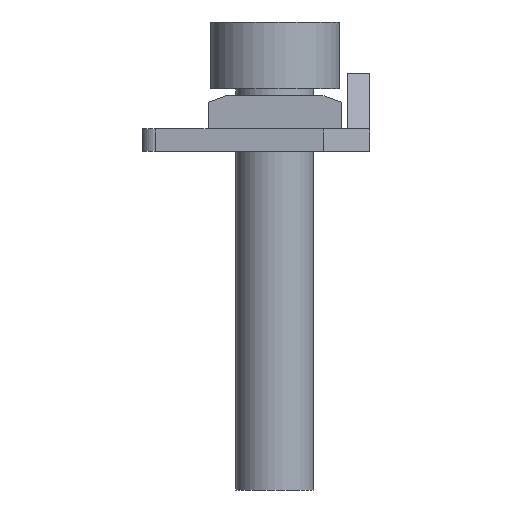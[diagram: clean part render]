
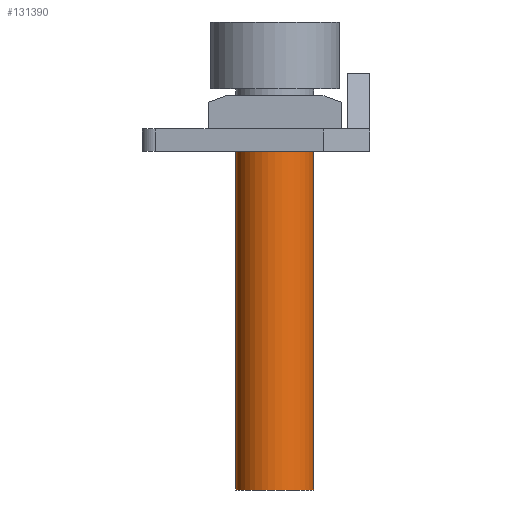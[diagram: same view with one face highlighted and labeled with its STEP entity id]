
A CAD part, left-side view. The second image highlights one B-rep face of the part: STEP entity #131390.
In plain terms, the highlighted cylindrical face has radius 1.75 mm (diameter 3.5 mm), a partial arc.
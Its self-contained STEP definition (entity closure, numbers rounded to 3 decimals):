
#112160=CARTESIAN_POINT('',(41.5,66.,0.2));
#112170=DIRECTION('',(0.,0.,-1.));
#112180=DIRECTION('',(0.,1.,0.));
#112190=AXIS2_PLACEMENT_3D('',#112160,#112170,#112180);
#112200=CIRCLE('',#112190,1.75);
#112210=CARTESIAN_POINT('',(41.5,67.75,0.2));
#112220=VERTEX_POINT('',#112210);
#112230=CARTESIAN_POINT('',(41.5,64.25,0.2));
#112240=VERTEX_POINT('',#112230);
#112250=EDGE_CURVE('',#112220,#112240,#112200,.T.);
#112450=CARTESIAN_POINT('',(41.5,64.25,-10.95));
#112460=DIRECTION('',(0.,0.,-1.));
#112470=VECTOR('',#112460,1.);
#112480=LINE('',#112450,#112470);
#112490=CARTESIAN_POINT('',(41.5,64.25,-16.));
#112500=VERTEX_POINT('',#112490);
#112510=EDGE_CURVE('',#112240,#112500,#112480,.T.);
#112530=CARTESIAN_POINT('',(41.5,66.,-16.));
#112540=DIRECTION('',(0.,0.,-1.));
#112550=DIRECTION('',(0.,1.,0.));
#112560=AXIS2_PLACEMENT_3D('',#112530,#112540,#112550);
#112570=CIRCLE('',#112560,1.75);
#112580=CARTESIAN_POINT('',(41.5,67.75,-16.));
#112590=VERTEX_POINT('',#112580);
#112620=CARTESIAN_POINT('',(41.5,67.75,-10.95));
#112630=DIRECTION('',(0.,0.,-1.));
#112640=VECTOR('',#112630,1.);
#112650=LINE('',#112620,#112640);
#112660=EDGE_CURVE('',#112220,#112590,#112650,.T.);
#112840=EDGE_CURVE('',#112590,#112500,#112570,.T.);
#128110=CARTESIAN_POINT('',(41.5,66.,-10.95));
#128120=DIRECTION('',(0.,0.,-1.));
#128130=DIRECTION('',(0.,1.,0.));
#128140=AXIS2_PLACEMENT_3D('',#128110,#128120,#128130);
#128150=CYLINDRICAL_SURFACE('',#128140,1.75);
#131330=ORIENTED_EDGE('',*,*,#112840,.F.);
#131340=ORIENTED_EDGE('',*,*,#112510,.T.);
#131350=ORIENTED_EDGE('',*,*,#112250,.T.);
#131360=ORIENTED_EDGE('',*,*,#112660,.F.);
#131370=EDGE_LOOP('',(#131360,#131350,#131340,#131330));
#131380=FACE_OUTER_BOUND('',#131370,.T.);
#131390=ADVANCED_FACE('',(#131380),#128150,.T.);
